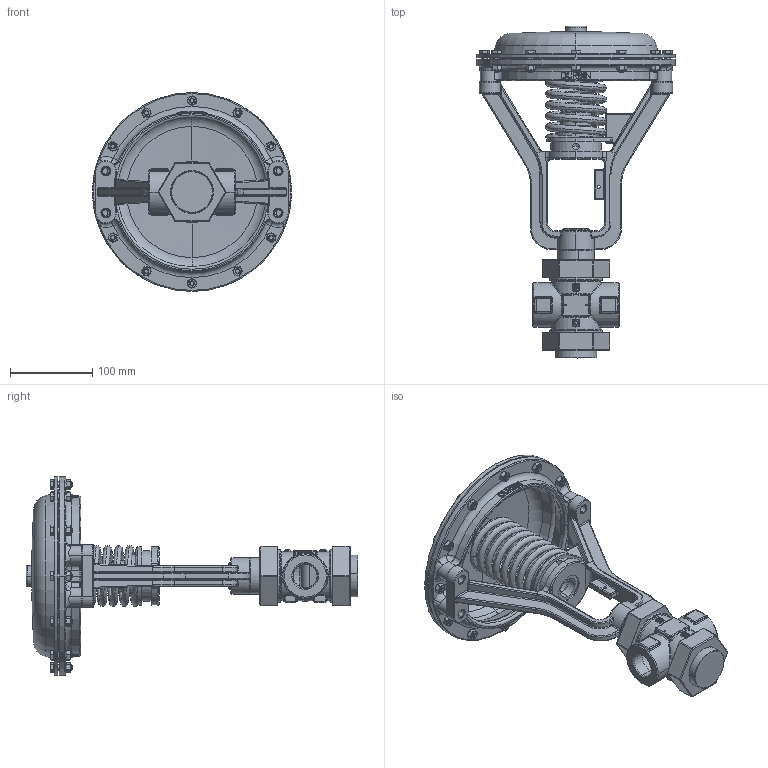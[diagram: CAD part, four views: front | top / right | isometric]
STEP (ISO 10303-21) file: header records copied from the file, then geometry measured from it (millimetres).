
FILE_DESCRIPTION (( 'STEP AP203' ), '1' );
FILE_NAME ('.75-1.25 2W LG NPT VP-STEP.STEP', '2018-11-07T16:09:01', ( '' ), ( '' ), 'SwSTEP 2.0', 'SolidWorks 2012', '' );
FILE_SCHEMA (( 'CONFIG_CONTROL_DESIGN' ));
Length unit declared in the file: inch
Products named in the file (15): .75-1.25 2W LG NPT VP-STEP; VP506-SS; H060-03; H096-10; D293-072DR_COMPRESSED V-PORT; C133-010D-AL; C543-001D; C293-030DR; D771; C293-030DM; C893-022D-SS; D283-061D-SS; C663-026D-SS; C213-028D-SS; C113-059D-SS
Assembly tree (37 placements, depth 3):
  .75-1.25 2W LG NPT VP-STEP
    C113-059D-SS
    C213-028D-SS
    C663-026D-SS  x2
    D283-061D-SS
    C893-022D-SS
    C293-030DR
      C293-030DM
      D771
    C543-001D
    C133-010D-AL
    D293-072DR_COMPRESSED V-PORT
    H096-10  x12
    H060-03  x12
    VP506-SS
Bounding box: 241.81 x 403.56 x 241.81 mm (x, y, z)
Volume: 1248058.1 mm3; surface area: 460181.1 mm2
Topology: 36 solids, 36 shells, 3772 faces, 8776 edges, 5046 vertices
Faces by surface type: plane 960, cylinder 866, bspline 719, cone 488, sphere 383, torus 356
Entity records: 117763 total; most frequent: CARTESIAN_POINT 59325, ORIENTED_EDGE 12328, DIRECTION 10925, EDGE_CURVE 6164, AXIS2_PLACEMENT_3D 4352, VERTEX_POINT 3778, EDGE_LOOP 2752, ADVANCED_FACE 2535
